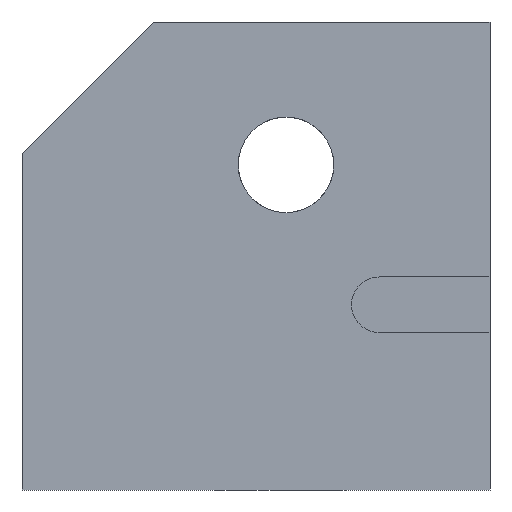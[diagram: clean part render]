
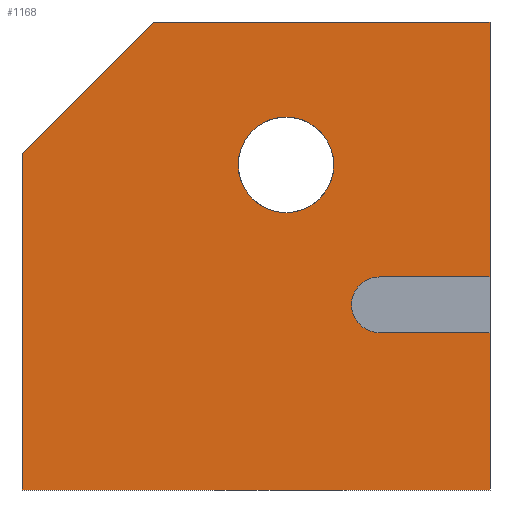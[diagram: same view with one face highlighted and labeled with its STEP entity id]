
A CAD part, front view. The second image highlights one B-rep face of the part: STEP entity #1168.
In plain terms, the highlighted planar face has unit normal (0, -1, 0).
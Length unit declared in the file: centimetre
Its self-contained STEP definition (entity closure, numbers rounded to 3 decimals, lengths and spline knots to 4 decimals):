
#11 = DIRECTION ( 'NONE',  ( 0., 0., -1. ) ) ;
#32 = VERTEX_POINT ( 'NONE', #1004 ) ;
#50 = EDGE_LOOP ( 'NONE', ( #1078, #106, #1462, #1593, #664, #831, #1347, #927, #955 ) ) ;
#60 = CARTESIAN_POINT ( 'NONE',  ( 1000., 0., 1000. ) ) ;
#84 = DIRECTION ( 'NONE',  ( 0., 1., 0. ) ) ;
#106 = ORIENTED_EDGE ( 'NONE', *, *, #206, .F. ) ;
#118 = VECTOR ( 'NONE', #1623, 100. ) ;
#133 = VECTOR ( 'NONE', #1388, 100. ) ;
#140 = CARTESIAN_POINT ( 'NONE',  ( 564.0815, 0., 694.7805 ) ) ;
#141 = LINE ( 'NONE', #668, #1592 ) ;
#166 = DIRECTION ( 'NONE',  ( 1., 0., 0. ) ) ;
#179 = DIRECTION ( 'NONE',  ( -1., 0., 0. ) ) ;
#206 = EDGE_CURVE ( 'NONE', #934, #1127, #669, .T. ) ;
#208 = CARTESIAN_POINT ( 'NONE',  ( 1000., 0., 336.1889 ) ) ;
#222 = AXIS2_PLACEMENT_3D ( 'NONE', #140, #1165, #11 ) ;
#252 = LINE ( 'NONE', #531, #1418 ) ;
#271 = VERTEX_POINT ( 'NONE', #1080 ) ;
#278 = EDGE_CURVE ( 'NONE', #1386, #551, #1379, .T. ) ;
#355 = DIRECTION ( 'NONE',  ( -0.707, 0., -0.707 ) ) ;
#363 = CARTESIAN_POINT ( 'NONE',  ( 0., 0., 1000. ) ) ;
#376 = CARTESIAN_POINT ( 'NONE',  ( 564.0815, 0., 796.7817 ) ) ;
#450 = CARTESIAN_POINT ( 'NONE',  ( 1000., 0., 0. ) ) ;
#452 = CARTESIAN_POINT ( 'NONE',  ( 0., 0., 0. ) ) ;
#454 = EDGE_LOOP ( 'NONE', ( #825, #1320 ) ) ;
#457 = CARTESIAN_POINT ( 'NONE',  ( 1000., 0., 455.3152 ) ) ;
#463 = LINE ( 'NONE', #1634, #743 ) ;
#514 = EDGE_CURVE ( 'NONE', #1127, #32, #771, .T. ) ;
#531 = CARTESIAN_POINT ( 'NONE',  ( 0., 0., 0. ) ) ;
#536 = EDGE_CURVE ( 'NONE', #933, #1452, #741, .T. ) ;
#551 = VERTEX_POINT ( 'NONE', #450 ) ;
#571 = EDGE_CURVE ( 'NONE', #1452, #933, #1262, .T. ) ;
#664 = ORIENTED_EDGE ( 'NONE', *, *, #1120, .T. ) ;
#668 = CARTESIAN_POINT ( 'NONE',  ( 0., 0., 1000. ) ) ;
#669 = LINE ( 'NONE', #457, #1304 ) ;
#680 = AXIS2_PLACEMENT_3D ( 'NONE', #363, #84, #1365 ) ;
#720 = LINE ( 'NONE', #60, #118 ) ;
#724 = EDGE_CURVE ( 'NONE', #32, #1386, #1579, .T. ) ;
#741 = CIRCLE ( 'NONE', #981, 102.0011 ) ;
#743 = VECTOR ( 'NONE', #355, 100. ) ;
#755 = EDGE_CURVE ( 'NONE', #1137, #551, #252, .T. ) ;
#766 = EDGE_CURVE ( 'NONE', #271, #1329, #141, .T. ) ;
#771 = CIRCLE ( 'NONE', #1033, 59.5632 ) ;
#780 = DIRECTION ( 'NONE',  ( 1., 0., 0. ) ) ;
#807 = VERTEX_POINT ( 'NONE', #1183 ) ;
#813 = VECTOR ( 'NONE', #166, 100. ) ;
#825 = ORIENTED_EDGE ( 'NONE', *, *, #571, .F. ) ;
#831 = ORIENTED_EDGE ( 'NONE', *, *, #1345, .T. ) ;
#864 = LINE ( 'NONE', #1486, #1603 ) ;
#878 = CARTESIAN_POINT ( 'NONE',  ( 1000., 0., 1000. ) ) ;
#927 = ORIENTED_EDGE ( 'NONE', *, *, #278, .F. ) ;
#933 = VERTEX_POINT ( 'NONE', #376 ) ;
#934 = VERTEX_POINT ( 'NONE', #1017 ) ;
#955 = ORIENTED_EDGE ( 'NONE', *, *, #724, .F. ) ;
#959 = DIRECTION ( 'NONE',  ( 0., -1., 0. ) ) ;
#981 = AXIS2_PLACEMENT_3D ( 'NONE', #1622, #959, #1477 ) ;
#993 = DIRECTION ( 'NONE',  ( 0., 0., -1. ) ) ;
#1004 = CARTESIAN_POINT ( 'NONE',  ( 763.4737, 0., 336.1889 ) ) ;
#1013 = PLANE ( 'NONE',  #680 ) ;
#1017 = CARTESIAN_POINT ( 'NONE',  ( 1000., 0., 455.3152 ) ) ;
#1033 = AXIS2_PLACEMENT_3D ( 'NONE', #1263, #1119, #1088 ) ;
#1077 = CARTESIAN_POINT ( 'NONE',  ( 763.4737, 0., 336.1889 ) ) ;
#1078 = ORIENTED_EDGE ( 'NONE', *, *, #514, .F. ) ;
#1080 = CARTESIAN_POINT ( 'NONE',  ( 280.7743, 0., 1000. ) ) ;
#1088 = DIRECTION ( 'NONE',  ( 0., 0., -1. ) ) ;
#1119 = DIRECTION ( 'NONE',  ( 0., -1., 0. ) ) ;
#1120 = EDGE_CURVE ( 'NONE', #271, #807, #463, .T. ) ;
#1127 = VERTEX_POINT ( 'NONE', #1644 ) ;
#1137 = VERTEX_POINT ( 'NONE', #452 ) ;
#1165 = DIRECTION ( 'NONE',  ( 0., -1., 0. ) ) ;
#1168 = ADVANCED_FACE ( 'NONE', ( #1265, #1652 ), #1013, .F. ) ;
#1183 = CARTESIAN_POINT ( 'NONE',  ( 0., 0., 719.2257 ) ) ;
#1262 = CIRCLE ( 'NONE', #222, 102.0011 ) ;
#1263 = CARTESIAN_POINT ( 'NONE',  ( 763.4737, 0., 395.752 ) ) ;
#1265 = FACE_BOUND ( 'NONE', #454, .T. ) ;
#1304 = VECTOR ( 'NONE', #179, 100. ) ;
#1312 = DIRECTION ( 'NONE',  ( 1., 0., 0. ) ) ;
#1320 = ORIENTED_EDGE ( 'NONE', *, *, #536, .F. ) ;
#1329 = VERTEX_POINT ( 'NONE', #1364 ) ;
#1344 = CARTESIAN_POINT ( 'NONE',  ( 564.0815, 0., 592.7794 ) ) ;
#1345 = EDGE_CURVE ( 'NONE', #807, #1137, #864, .T. ) ;
#1347 = ORIENTED_EDGE ( 'NONE', *, *, #755, .T. ) ;
#1364 = CARTESIAN_POINT ( 'NONE',  ( 1000., 0., 1000. ) ) ;
#1365 = DIRECTION ( 'NONE',  ( 0., 0., 1. ) ) ;
#1379 = LINE ( 'NONE', #878, #133 ) ;
#1386 = VERTEX_POINT ( 'NONE', #208 ) ;
#1388 = DIRECTION ( 'NONE',  ( 0., 0., -1. ) ) ;
#1418 = VECTOR ( 'NONE', #780, 100. ) ;
#1430 = EDGE_CURVE ( 'NONE', #1329, #934, #720, .T. ) ;
#1452 = VERTEX_POINT ( 'NONE', #1344 ) ;
#1462 = ORIENTED_EDGE ( 'NONE', *, *, #1430, .F. ) ;
#1477 = DIRECTION ( 'NONE',  ( 0., 0., -1. ) ) ;
#1486 = CARTESIAN_POINT ( 'NONE',  ( 0., 0., 1000. ) ) ;
#1579 = LINE ( 'NONE', #1077, #813 ) ;
#1592 = VECTOR ( 'NONE', #1312, 100. ) ;
#1593 = ORIENTED_EDGE ( 'NONE', *, *, #766, .F. ) ;
#1603 = VECTOR ( 'NONE', #993, 100. ) ;
#1622 = CARTESIAN_POINT ( 'NONE',  ( 564.0815, 0., 694.7805 ) ) ;
#1623 = DIRECTION ( 'NONE',  ( 0., 0., -1. ) ) ;
#1634 = CARTESIAN_POINT ( 'NONE',  ( 280.7743, 0., 1000. ) ) ;
#1644 = CARTESIAN_POINT ( 'NONE',  ( 763.4737, 0., 455.3152 ) ) ;
#1652 = FACE_OUTER_BOUND ( 'NONE', #50, .T. ) ;
